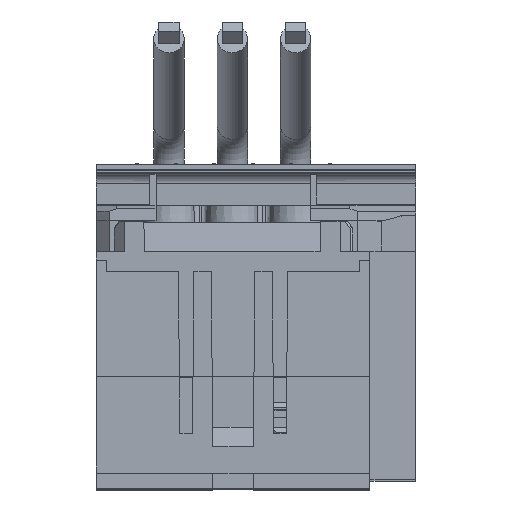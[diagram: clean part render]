
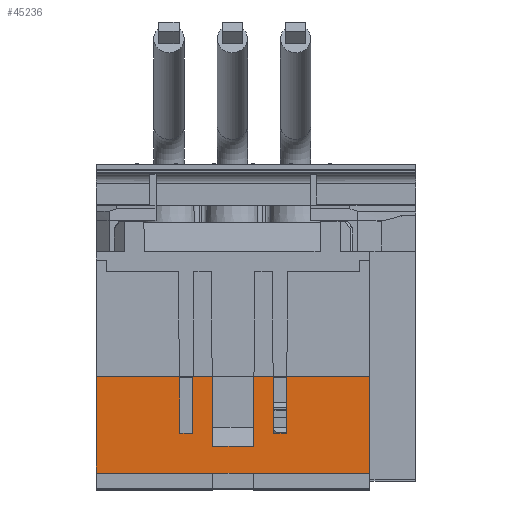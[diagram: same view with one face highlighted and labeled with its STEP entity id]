
A CAD part, top view. The second image highlights one B-rep face of the part: STEP entity #45236.
In plain terms, the highlighted planar face has unit normal (0, -0.009, 1).
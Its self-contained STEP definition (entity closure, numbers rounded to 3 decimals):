
#402 = VECTOR ( 'NONE', #61060, 1000. ) ;
#2489 = DIRECTION ( 'NONE',  ( 1., 0., 0. ) ) ;
#4227 = EDGE_CURVE ( 'NONE', #50451, #38381, #75697, .T. ) ;
#4259 = LINE ( 'NONE', #75996, #68752 ) ;
#4497 = VERTEX_POINT ( 'NONE', #19499 ) ;
#4592 = EDGE_CURVE ( 'NONE', #63991, #4497, #72840, .T. ) ;
#5123 = CARTESIAN_POINT ( 'NONE',  ( -26., -23.5, 199.833 ) ) ;
#5448 = VERTEX_POINT ( 'NONE', #32431 ) ;
#6088 = VECTOR ( 'NONE', #13656, 1000. ) ;
#6256 = ORIENTED_EDGE ( 'NONE', *, *, #4592, .T. ) ;
#6318 = CARTESIAN_POINT ( 'NONE',  ( 7.902, -4.5, 199.999 ) ) ;
#6405 = CARTESIAN_POINT ( 'NONE',  ( -26., -15.7, 199.902 ) ) ;
#6722 = CARTESIAN_POINT ( 'NONE',  ( -10.598, -4.5, 199.999 ) ) ;
#7584 = ORIENTED_EDGE ( 'NONE', *, *, #41240, .T. ) ;
#8064 = DIRECTION ( 'NONE',  ( 1., 0., 0. ) ) ;
#8226 = EDGE_CURVE ( 'NONE', #42325, #50451, #45099, .T. ) ;
#8769 = CARTESIAN_POINT ( 'NONE',  ( 10.5, -15.7, 199.902 ) ) ;
#9096 = LINE ( 'NONE', #71275, #52148 ) ;
#10007 = LINE ( 'NONE', #12803, #39322 ) ;
#12171 = CARTESIAN_POINT ( 'NONE',  ( -27., -4.5, 199.999 ) ) ;
#12803 = CARTESIAN_POINT ( 'NONE',  ( -26., -15.7, 199.902 ) ) ;
#13656 = DIRECTION ( 'NONE',  ( -0.009, 1., 0.009 ) ) ;
#15078 = ORIENTED_EDGE ( 'NONE', *, *, #26174, .T. ) ;
#15526 = EDGE_CURVE ( 'NONE', #60306, #38381, #42304, .T. ) ;
#15683 = VERTEX_POINT ( 'NONE', #67084 ) ;
#16370 = ORIENTED_EDGE ( 'NONE', *, *, #60707, .T. ) ;
#16613 = CARTESIAN_POINT ( 'NONE',  ( -10.5, -15.7, 199.902 ) ) ;
#17289 = CARTESIAN_POINT ( 'NONE',  ( 4., -23.5, 199.833 ) ) ;
#18147 = EDGE_CURVE ( 'NONE', #60306, #19550, #9096, .T. ) ;
#18756 = CARTESIAN_POINT ( 'NONE',  ( -10.5, -15.7, 199.902 ) ) ;
#18859 = VECTOR ( 'NONE', #64117, 1000. ) ;
#18886 = EDGE_CURVE ( 'NONE', #59646, #15683, #10007, .T. ) ;
#19499 = CARTESIAN_POINT ( 'NONE',  ( 4.003, -18.18, 199.88 ) ) ;
#19543 = CARTESIAN_POINT ( 'NONE',  ( -26., -4.5, 199.999 ) ) ;
#19550 = VERTEX_POINT ( 'NONE', #50736 ) ;
#20424 = CARTESIAN_POINT ( 'NONE',  ( -4., -23.5, 199.833 ) ) ;
#21478 = CARTESIAN_POINT ( 'NONE',  ( 10.778, 16.2, 200.18 ) ) ;
#21989 = ORIENTED_EDGE ( 'NONE', *, *, #80161, .F. ) ;
#22790 = CARTESIAN_POINT ( 'NONE',  ( 27., -23.5, 199.833 ) ) ;
#22908 = LINE ( 'NONE', #17289, #402 ) ;
#22910 = DIRECTION ( 'NONE',  ( -0.009, 1., 0.009 ) ) ;
#25691 = FACE_OUTER_BOUND ( 'NONE', #77319, .T. ) ;
#26174 = EDGE_CURVE ( 'NONE', #19550, #64647, #22908, .T. ) ;
#26299 = EDGE_CURVE ( 'NONE', #52314, #42325, #54207, .T. ) ;
#26602 = ORIENTED_EDGE ( 'NONE', *, *, #63428, .T. ) ;
#26837 = ORIENTED_EDGE ( 'NONE', *, *, #15526, .F. ) ;
#26910 = VERTEX_POINT ( 'NONE', #68548 ) ;
#27518 = LINE ( 'NONE', #21478, #37316 ) ;
#28254 = PLANE ( 'NONE',  #49510 ) ;
#28509 = ORIENTED_EDGE ( 'NONE', *, *, #18147, .T. ) ;
#28519 = CARTESIAN_POINT ( 'NONE',  ( -26., 18.5, 200.2 ) ) ;
#29067 = ORIENTED_EDGE ( 'NONE', *, *, #4227, .T. ) ;
#30800 = VECTOR ( 'NONE', #22910, 1000. ) ;
#31411 = DIRECTION ( 'NONE',  ( -1., 0., 0. ) ) ;
#32431 = CARTESIAN_POINT ( 'NONE',  ( -4.003, -18.18, 199.88 ) ) ;
#33842 = DIRECTION ( 'NONE',  ( 0., -1., -0.009 ) ) ;
#33899 = LINE ( 'NONE', #57355, #73966 ) ;
#35438 = VERTEX_POINT ( 'NONE', #77017 ) ;
#36806 = DIRECTION ( 'NONE',  ( 1., 0., 0. ) ) ;
#37316 = VECTOR ( 'NONE', #41404, 1000. ) ;
#38381 = VERTEX_POINT ( 'NONE', #6722 ) ;
#39322 = VECTOR ( 'NONE', #31411, 1000. ) ;
#39439 = LINE ( 'NONE', #19543, #71758 ) ;
#39492 = CARTESIAN_POINT ( 'NONE',  ( 8., -15.7, 199.902 ) ) ;
#39571 = VECTOR ( 'NONE', #63755, 1000. ) ;
#40105 = ORIENTED_EDGE ( 'NONE', *, *, #52557, .T. ) ;
#40539 = EDGE_CURVE ( 'NONE', #42398, #59646, #27518, .T. ) ;
#41097 = DIRECTION ( 'NONE',  ( 0., -1., -0.009 ) ) ;
#41240 = EDGE_CURVE ( 'NONE', #5448, #44723, #49060, .T. ) ;
#41404 = DIRECTION ( 'NONE',  ( -0.009, -1., -0.009 ) ) ;
#41630 = LINE ( 'NONE', #5123, #51482 ) ;
#42304 = LINE ( 'NONE', #77181, #18859 ) ;
#42325 = VERTEX_POINT ( 'NONE', #45770 ) ;
#42398 = VERTEX_POINT ( 'NONE', #65716 ) ;
#42510 = VERTEX_POINT ( 'NONE', #22790 ) ;
#42768 = LINE ( 'NONE', #52256, #79888 ) ;
#43034 = VECTOR ( 'NONE', #76375, 1000. ) ;
#43161 = VECTOR ( 'NONE', #44875, 1000. ) ;
#44500 = ORIENTED_EDGE ( 'NONE', *, *, #8226, .T. ) ;
#44723 = VERTEX_POINT ( 'NONE', #78833 ) ;
#44875 = DIRECTION ( 'NONE',  ( -1., 0., 0. ) ) ;
#44973 = DIRECTION ( 'NONE',  ( 1., 0., 0. ) ) ;
#45099 = LINE ( 'NONE', #6405, #43161 ) ;
#45114 = DIRECTION ( 'NONE',  ( 0., 1., 0.009 ) ) ;
#45236 = ADVANCED_FACE ( 'NONE', ( #25691 ), #28254, .T. ) ;
#45329 = EDGE_CURVE ( 'NONE', #42510, #26910, #4259, .T. ) ;
#45770 = CARTESIAN_POINT ( 'NONE',  ( -8., -15.7, 199.902 ) ) ;
#49060 = LINE ( 'NONE', #51130, #6088 ) ;
#49510 = AXIS2_PLACEMENT_3D ( 'NONE', #28519, #78773, #41097 ) ;
#50451 = VERTEX_POINT ( 'NONE', #18756 ) ;
#50736 = CARTESIAN_POINT ( 'NONE',  ( -27., -23.5, 199.833 ) ) ;
#51130 = CARTESIAN_POINT ( 'NONE',  ( -4.003, -18.18, 199.88 ) ) ;
#51482 = VECTOR ( 'NONE', #36806, 1000. ) ;
#51582 = CARTESIAN_POINT ( 'NONE',  ( -26., -4.5, 199.999 ) ) ;
#52148 = VECTOR ( 'NONE', #33842, 1000. ) ;
#52256 = CARTESIAN_POINT ( 'NONE',  ( -26., -23.5, 199.833 ) ) ;
#52314 = VERTEX_POINT ( 'NONE', #79958 ) ;
#52557 = EDGE_CURVE ( 'NONE', #15683, #53015, #63579, .T. ) ;
#53015 = VERTEX_POINT ( 'NONE', #6318 ) ;
#54065 = LINE ( 'NONE', #55686, #67682 ) ;
#54207 = LINE ( 'NONE', #56630, #78617 ) ;
#54382 = EDGE_CURVE ( 'NONE', #52314, #44723, #70163, .T. ) ;
#54586 = VECTOR ( 'NONE', #44973, 1000. ) ;
#55686 = CARTESIAN_POINT ( 'NONE',  ( -26., -18.18, 199.88 ) ) ;
#56269 = DIRECTION ( 'NONE',  ( 1., 0., 0. ) ) ;
#56630 = CARTESIAN_POINT ( 'NONE',  ( -7.722, 16.2, 200.18 ) ) ;
#57355 = CARTESIAN_POINT ( 'NONE',  ( -26., -4.5, 199.999 ) ) ;
#57433 = DIRECTION ( 'NONE',  ( -0.009, -1., -0.009 ) ) ;
#58026 = EDGE_CURVE ( 'NONE', #42398, #26910, #39439, .T. ) ;
#59064 = ORIENTED_EDGE ( 'NONE', *, *, #54382, .F. ) ;
#59646 = VERTEX_POINT ( 'NONE', #8769 ) ;
#59921 = ORIENTED_EDGE ( 'NONE', *, *, #18886, .T. ) ;
#60306 = VERTEX_POINT ( 'NONE', #12171 ) ;
#60535 = ORIENTED_EDGE ( 'NONE', *, *, #45329, .T. ) ;
#60707 = EDGE_CURVE ( 'NONE', #64647, #35438, #41630, .T. ) ;
#61060 = DIRECTION ( 'NONE',  ( 1., 0., 0. ) ) ;
#63428 = EDGE_CURVE ( 'NONE', #4497, #5448, #54065, .T. ) ;
#63579 = LINE ( 'NONE', #39492, #43034 ) ;
#63755 = DIRECTION ( 'NONE',  ( -0.009, -1., -0.009 ) ) ;
#63991 = VERTEX_POINT ( 'NONE', #69704 ) ;
#64117 = DIRECTION ( 'NONE',  ( 1., 0., 0. ) ) ;
#64647 = VERTEX_POINT ( 'NONE', #20424 ) ;
#65716 = CARTESIAN_POINT ( 'NONE',  ( 10.598, -4.5, 199.999 ) ) ;
#66886 = ORIENTED_EDGE ( 'NONE', *, *, #58026, .F. ) ;
#67084 = CARTESIAN_POINT ( 'NONE',  ( 8., -15.7, 199.902 ) ) ;
#67471 = EDGE_CURVE ( 'NONE', #35438, #42510, #42768, .T. ) ;
#67682 = VECTOR ( 'NONE', #74489, 1000. ) ;
#68548 = CARTESIAN_POINT ( 'NONE',  ( 27., -4.5, 199.999 ) ) ;
#68752 = VECTOR ( 'NONE', #45114, 1000. ) ;
#69704 = CARTESIAN_POINT ( 'NONE',  ( 4.122, -4.5, 199.999 ) ) ;
#70163 = LINE ( 'NONE', #51582, #54586 ) ;
#71032 = ORIENTED_EDGE ( 'NONE', *, *, #26299, .T. ) ;
#71275 = CARTESIAN_POINT ( 'NONE',  ( -27., 18.5, 200.2 ) ) ;
#71758 = VECTOR ( 'NONE', #8064, 1000. ) ;
#72840 = LINE ( 'NONE', #76301, #39571 ) ;
#72949 = ORIENTED_EDGE ( 'NONE', *, *, #40539, .T. ) ;
#73966 = VECTOR ( 'NONE', #56269, 1000. ) ;
#74489 = DIRECTION ( 'NONE',  ( -1., 0., 0. ) ) ;
#75697 = LINE ( 'NONE', #16613, #30800 ) ;
#75996 = CARTESIAN_POINT ( 'NONE',  ( 27., 18.5, 200.2 ) ) ;
#76301 = CARTESIAN_POINT ( 'NONE',  ( 4.303, 16.2, 200.18 ) ) ;
#76375 = DIRECTION ( 'NONE',  ( -0.009, 1., 0.009 ) ) ;
#77017 = CARTESIAN_POINT ( 'NONE',  ( 4., -23.5, 199.833 ) ) ;
#77181 = CARTESIAN_POINT ( 'NONE',  ( -26., -4.5, 199.999 ) ) ;
#77319 = EDGE_LOOP ( 'NONE', ( #26837, #28509, #15078, #16370, #77990, #60535, #66886, #72949, #59921, #40105, #21989, #6256, #26602, #7584, #59064, #71032, #44500, #29067 ) ) ;
#77990 = ORIENTED_EDGE ( 'NONE', *, *, #67471, .T. ) ;
#78617 = VECTOR ( 'NONE', #57433, 1000. ) ;
#78773 = DIRECTION ( 'NONE',  ( 0., -0.009, 1. ) ) ;
#78833 = CARTESIAN_POINT ( 'NONE',  ( -4.122, -4.5, 199.999 ) ) ;
#79888 = VECTOR ( 'NONE', #2489, 1000. ) ;
#79958 = CARTESIAN_POINT ( 'NONE',  ( -7.902, -4.5, 199.999 ) ) ;
#80161 = EDGE_CURVE ( 'NONE', #63991, #53015, #33899, .T. ) ;
